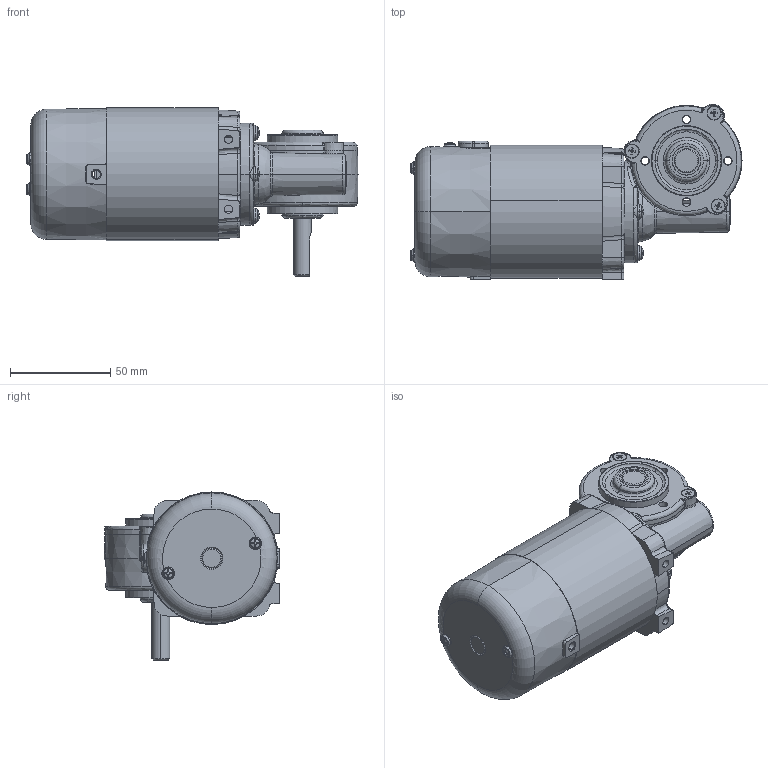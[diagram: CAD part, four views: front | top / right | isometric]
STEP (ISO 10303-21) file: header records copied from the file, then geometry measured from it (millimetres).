
FILE_DESCRIPTION (( 'STEP AP214' ), '1' );
FILE_NAME ('PM10-S.STEP', '2021-10-06T15:19:27', ( '' ), ( '' ), 'SwSTEP 2.0', 'SolidWorks 2020', '' );
FILE_SCHEMA (( 'AUTOMOTIVE_DESIGN' ));
Length unit declared in the file: millimetre
Products named in the file (1): PM10-S
Bounding box: 165.7 x 87.72 x 83.9 mm (x, y, z)
Surface area: 60703.3 mm2 (no closed solid volume)
Topology: 0 solids, 33 shells, 1254 faces, 5028 edges, 3674 vertices
Faces by surface type: plane 555, cone 347, bspline 167, cylinder 131, torus 42, sphere 12
Entity records: 81354 total; most frequent: CARTESIAN_POINT 28013, ORIENTED_EDGE 7877, DIRECTION 7485, EDGE_CURVE 5003, VERTEX_POINT 3674, LINE 3069, VECTOR 3069, AXIS2_PLACEMENT_3D 2208
